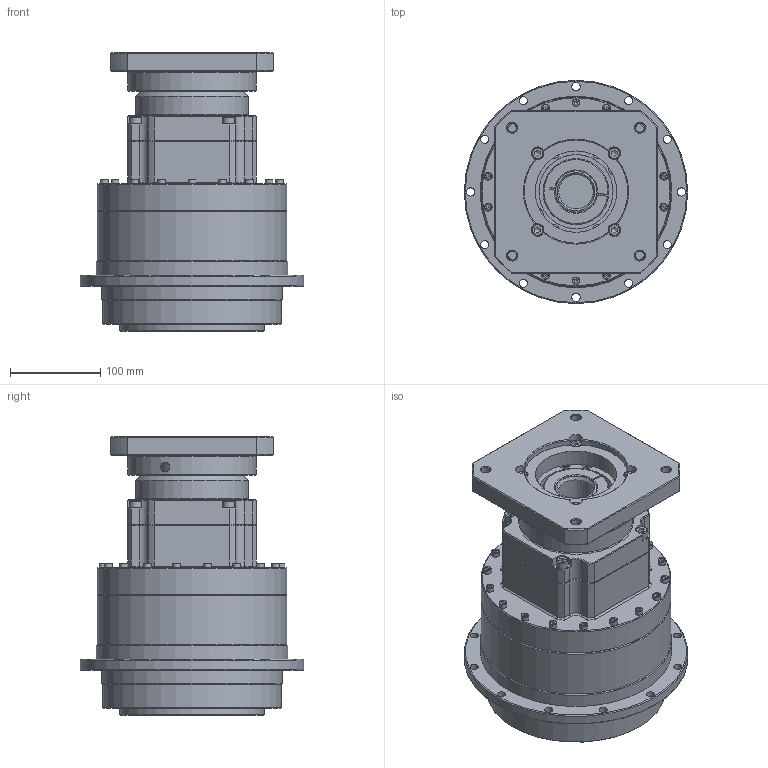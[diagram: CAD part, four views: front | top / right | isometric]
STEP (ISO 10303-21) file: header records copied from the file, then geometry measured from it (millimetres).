
FILE_DESCRIPTION((''),'2;1');
FILE_NAME('D:\유성\유성\도면\3D\2. 홈페이지용 3D 도면 (ipt)\외부도\SPIFH180\SPIFH180 DOWN\SPIFH180D SERIES (2 STAGE)_Shrinkwrap_1.stp','2014-05-08T19:26:51',('nagyu'),(''),'Autodesk Inventor 2013','Autodesk Inventor 2013','');
FILE_SCHEMA(('AUTOMOTIVE_DESIGN { 1 0 10303 214 1 1 1 1 }'));
Length unit declared in the file: millimetre
Products named in the file (1): SPIFH180D SERIES (2 STAGE)_Shrinkwrap_1
Bounding box: 247 x 247 x 308.15 mm (x, y, z)
Volume: 7579225.4 mm3; surface area: 451453.7 mm2
Topology: 1 solids, 53 shells, 844 faces, 1977 edges, 1260 vertices
Faces by surface type: plane 378, cylinder 247, cone 137, torus 82
Full cylindrical faces by diameter (mm): 4.134 x18, 5 x18, 5.5 x18, 6.647 x4, 8 x8, 8.376 x10, 8.5 x18, 8.7 x10, 9 x16, 10 x1, 10.106 x5, 13 x8, 14 x10, 16 x10, 38 x1, 44.5 x1, 54.8 x1, 80 x1, 82 x1, 89 x2, 90 x1, 100 x1, 125 x2, 130 x1, 130.2 x1, 142 x1, 160 x1, 180 x2, 184.8 x1, 198 x1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
Entity records: 21687 total; most frequent: CARTESIAN_POINT 4381, DIRECTION 3566, ORIENTED_EDGE 2946, AXIS2_PLACEMENT_3D 1498, EDGE_CURVE 1473, EDGE_LOOP 1316, VERTEX_POINT 1097, FACE_OUTER_BOUND 844
